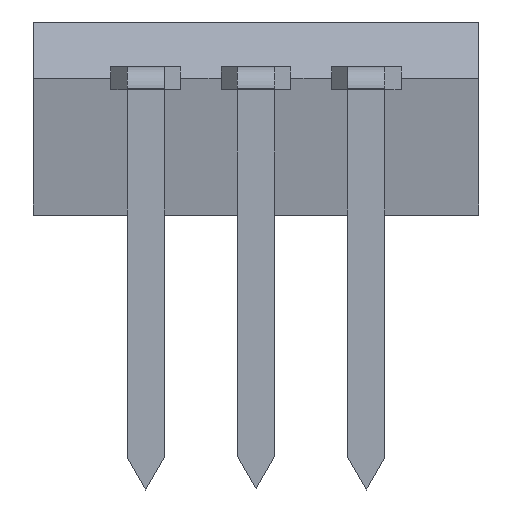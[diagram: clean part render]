
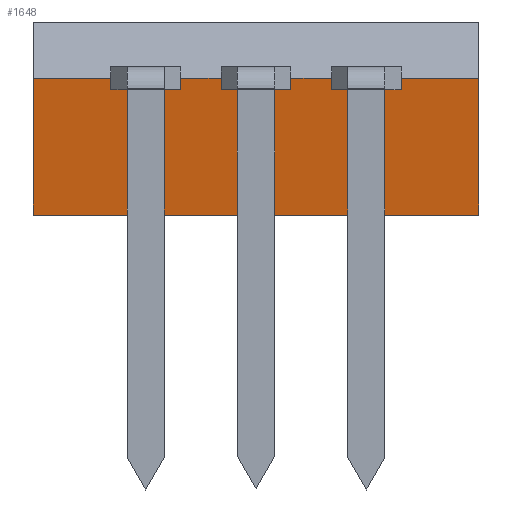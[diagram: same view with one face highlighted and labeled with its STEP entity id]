
A CAD part, front view. The second image highlights one B-rep face of the part: STEP entity #1648.
In plain terms, the highlighted planar face has unit normal (0, -0.988, -0.157).
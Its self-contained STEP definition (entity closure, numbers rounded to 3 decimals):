
#44=PLANE('',#1733);
#192=FACE_OUTER_BOUND('',#269,.T.);
#269=EDGE_LOOP('',(#1327,#1328,#1329,#1330,#1331,#1332,#1333,#1334,#1335,
#1336,#1337,#1338,#1339,#1340,#1341,#1342));
#328=LINE('',#2211,#544);
#338=LINE('',#2236,#554);
#347=LINE('',#2259,#563);
#430=LINE('',#2425,#646);
#431=LINE('',#2428,#647);
#434=LINE('',#2433,#650);
#437=LINE('',#2438,#653);
#440=LINE('',#2443,#656);
#457=LINE('',#2475,#673);
#458=LINE('',#2477,#674);
#459=LINE('',#2478,#675);
#460=LINE('',#2479,#676);
#461=LINE('',#2480,#677);
#462=LINE('',#2481,#678);
#463=LINE('',#2482,#679);
#464=LINE('',#2483,#680);
#544=VECTOR('',#1807,1.6);
#554=VECTOR('',#1825,1.6);
#563=VECTOR('',#1842,1.6);
#646=VECTOR('',#1957,3.189);
#647=VECTOR('',#1960,1.785);
#650=VECTOR('',#1963,0.94);
#653=VECTOR('',#1966,0.94);
#656=VECTOR('',#1969,1.785);
#673=VECTOR('',#1994,10.25);
#674=VECTOR('',#1997,3.189);
#675=VECTOR('',#1998,0.266);
#676=VECTOR('',#1999,0.266);
#677=VECTOR('',#2000,0.266);
#678=VECTOR('',#2001,0.266);
#679=VECTOR('',#2002,0.266);
#680=VECTOR('',#2003,0.266);
#775=VERTEX_POINT('',#2208);
#776=VERTEX_POINT('',#2210);
#786=VERTEX_POINT('',#2233);
#787=VERTEX_POINT('',#2235);
#796=VERTEX_POINT('',#2256);
#797=VERTEX_POINT('',#2258);
#859=VERTEX_POINT('',#2414);
#864=VERTEX_POINT('',#2423);
#865=VERTEX_POINT('',#2427);
#866=VERTEX_POINT('',#2430);
#867=VERTEX_POINT('',#2432);
#868=VERTEX_POINT('',#2435);
#869=VERTEX_POINT('',#2437);
#870=VERTEX_POINT('',#2440);
#871=VERTEX_POINT('',#2442);
#882=VERTEX_POINT('',#2473);
#932=EDGE_CURVE('',#775,#776,#328,.T.);
#944=EDGE_CURVE('',#786,#787,#338,.T.);
#955=EDGE_CURVE('',#796,#797,#347,.T.);
#1038=EDGE_CURVE('',#864,#859,#430,.T.);
#1039=EDGE_CURVE('',#859,#865,#431,.T.);
#1042=EDGE_CURVE('',#866,#867,#434,.T.);
#1045=EDGE_CURVE('',#868,#869,#437,.T.);
#1048=EDGE_CURVE('',#870,#871,#440,.T.);
#1065=EDGE_CURVE('',#864,#882,#457,.T.);
#1066=EDGE_CURVE('',#882,#871,#458,.T.);
#1067=EDGE_CURVE('',#870,#797,#459,.T.);
#1068=EDGE_CURVE('',#796,#869,#460,.T.);
#1069=EDGE_CURVE('',#868,#787,#461,.T.);
#1070=EDGE_CURVE('',#786,#867,#462,.T.);
#1071=EDGE_CURVE('',#866,#776,#463,.T.);
#1072=EDGE_CURVE('',#775,#865,#464,.T.);
#1327=ORIENTED_EDGE('',*,*,#1038,.F.);
#1328=ORIENTED_EDGE('',*,*,#1065,.T.);
#1329=ORIENTED_EDGE('',*,*,#1066,.T.);
#1330=ORIENTED_EDGE('',*,*,#1048,.F.);
#1331=ORIENTED_EDGE('',*,*,#1067,.T.);
#1332=ORIENTED_EDGE('',*,*,#955,.F.);
#1333=ORIENTED_EDGE('',*,*,#1068,.T.);
#1334=ORIENTED_EDGE('',*,*,#1045,.F.);
#1335=ORIENTED_EDGE('',*,*,#1069,.T.);
#1336=ORIENTED_EDGE('',*,*,#944,.F.);
#1337=ORIENTED_EDGE('',*,*,#1070,.T.);
#1338=ORIENTED_EDGE('',*,*,#1042,.F.);
#1339=ORIENTED_EDGE('',*,*,#1071,.T.);
#1340=ORIENTED_EDGE('',*,*,#932,.F.);
#1341=ORIENTED_EDGE('',*,*,#1072,.T.);
#1342=ORIENTED_EDGE('',*,*,#1039,.F.);
#1648=ADVANCED_FACE('',(#192),#44,.T.);
#1733=AXIS2_PLACEMENT_3D('',#2476,#1995,#1996);
#1807=DIRECTION('',(1.,0.,0.));
#1825=DIRECTION('',(1.,0.,0.));
#1842=DIRECTION('',(1.,0.,0.));
#1957=DIRECTION('',(0.,-0.157,0.988));
#1960=DIRECTION('',(1.,0.,0.));
#1963=DIRECTION('',(1.,0.,0.));
#1966=DIRECTION('',(1.,0.,0.));
#1969=DIRECTION('',(1.,0.,0.));
#1994=DIRECTION('',(1.,0.,0.));
#1995=DIRECTION('center_axis',(0.,-0.988,
-0.157));
#1996=DIRECTION('ref_axis',(0.,-0.157,0.988));
#1997=DIRECTION('',(0.,-0.157,0.988));
#1998=DIRECTION('',(0.,0.157,-0.988));
#1999=DIRECTION('',(0.,-0.157,0.988));
#2000=DIRECTION('',(0.,0.157,-0.988));
#2001=DIRECTION('',(0.,-0.157,0.988));
#2002=DIRECTION('',(0.,0.157,-0.988));
#2003=DIRECTION('',(0.,-0.157,0.988));
#2208=CARTESIAN_POINT('',(-0.8,4.027,2.888));
#2210=CARTESIAN_POINT('',(0.8,4.027,2.888));
#2211=CARTESIAN_POINT('',(-1.293,4.027,2.888));
#2233=CARTESIAN_POINT('',(1.74,4.027,2.888));
#2235=CARTESIAN_POINT('',(3.34,4.027,2.888));
#2236=CARTESIAN_POINT('',(0.191,4.027,2.888));
#2256=CARTESIAN_POINT('',(4.28,4.027,2.888));
#2258=CARTESIAN_POINT('',(5.88,4.027,2.888));
#2259=CARTESIAN_POINT('',(1.248,4.027,2.888));
#2414=CARTESIAN_POINT('',(-2.585,3.985,3.15));
#2423=CARTESIAN_POINT('',(-2.585,4.485,0.));
#2425=CARTESIAN_POINT('',(-2.585,4.485,0.));
#2427=CARTESIAN_POINT('',(-0.8,3.985,3.15));
#2428=CARTESIAN_POINT('',(-2.585,3.985,3.15));
#2430=CARTESIAN_POINT('',(0.8,3.985,3.15));
#2432=CARTESIAN_POINT('',(1.74,3.985,3.15));
#2433=CARTESIAN_POINT('',(-2.585,3.985,3.15));
#2435=CARTESIAN_POINT('',(3.34,3.985,3.15));
#2437=CARTESIAN_POINT('',(4.28,3.985,3.15));
#2438=CARTESIAN_POINT('',(-2.585,3.985,3.15));
#2440=CARTESIAN_POINT('',(5.88,3.985,3.15));
#2442=CARTESIAN_POINT('',(7.665,3.985,3.15));
#2443=CARTESIAN_POINT('',(-2.585,3.985,3.15));
#2473=CARTESIAN_POINT('',(7.665,4.485,0.));
#2475=CARTESIAN_POINT('',(-2.585,4.485,0.));
#2476=CARTESIAN_POINT('Origin',(-2.585,4.485,0.));
#2477=CARTESIAN_POINT('',(7.665,4.485,0.));
#2478=CARTESIAN_POINT('',(5.88,4.224,1.645));
#2479=CARTESIAN_POINT('',(4.28,4.174,1.962));
#2480=CARTESIAN_POINT('',(3.34,4.224,1.645));
#2481=CARTESIAN_POINT('',(1.74,4.174,1.962));
#2482=CARTESIAN_POINT('',(0.8,4.224,1.645));
#2483=CARTESIAN_POINT('',(-0.8,4.174,1.962));
